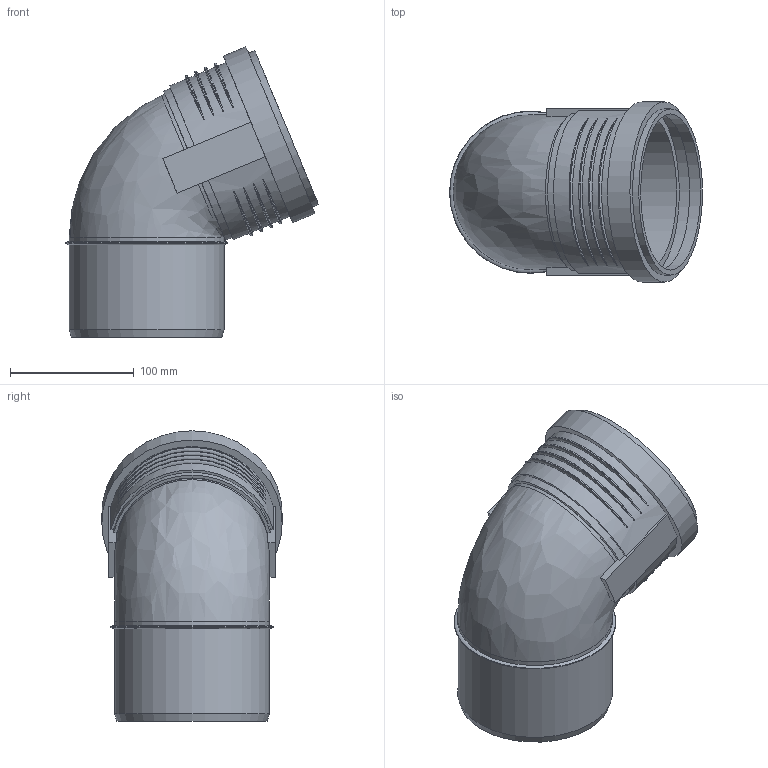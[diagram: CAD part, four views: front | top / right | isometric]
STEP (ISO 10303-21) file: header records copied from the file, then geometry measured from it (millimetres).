
FILE_DESCRIPTION(/* description */ (''),/* implementation_level */ '2;1');
FILE_NAME(/* name */ 'Z:\Geberit\Export\NewStep\390623.stp',/* time_stamp */ '2014-04-02T08:15:49+02:00',/* author */ ('ML'),/* organization */ (''),/* preprocessor_version */ 'ST-DEVELOPER v15.2',/* originating_system */ 'Autodesk Inventor 2014',/* authorisation */ '');
FILE_SCHEMA (('AUTOMOTIVE_DESIGN { 1 0 10303 214 3 1 1 }'));
Length unit declared in the file: millimetre
Products named in the file (3): 861594; 861625; 390623
Bounding box: 204.55 x 145.9 x 234.85 mm (x, y, z)
Volume: 431614.3 mm3; surface area: 213883.5 mm2
Topology: 2 solids, 2 shells, 68 faces, 162 edges, 109 vertices
Faces by surface type: torus 28, plane 19, cylinder 18, cone 2, bspline 1
Full cylindrical faces by diameter (mm): 116.8 x2, 117 x1, 125.2 x4, 126.4 x2, 134.6 x1, 137.7 x1, 145.9 x1
Entity records: 2726 total; most frequent: CARTESIAN_POINT 1150, DIRECTION 290, ORIENTED_EDGE 278, EDGE_CURVE 139, AXIS2_PLACEMENT_3D 127, VERTEX_POINT 106, EDGE_LOOP 103, STYLED_ITEM 70
